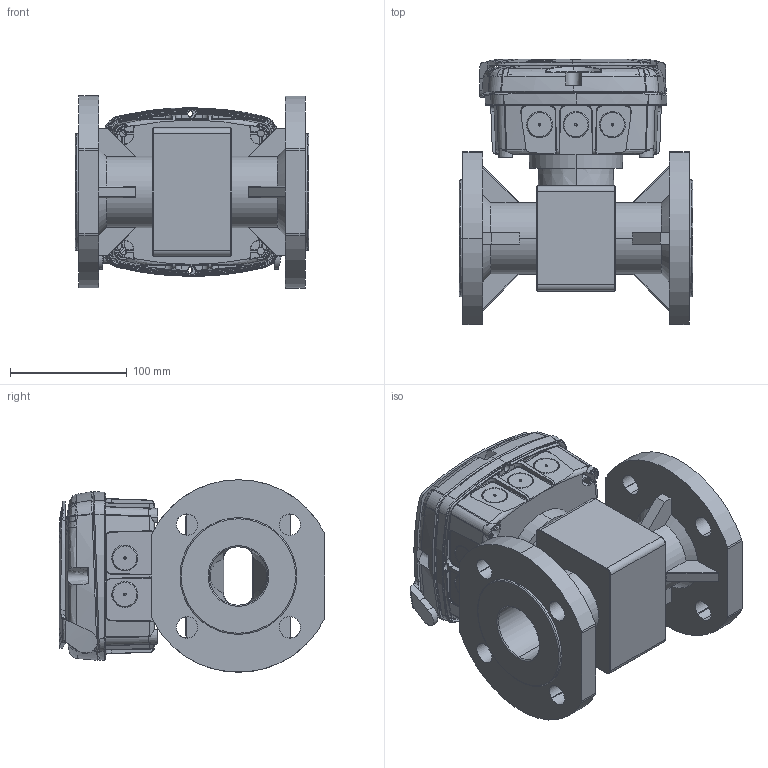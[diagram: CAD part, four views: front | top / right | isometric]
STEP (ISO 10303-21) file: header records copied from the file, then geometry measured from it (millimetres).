
FILE_DESCRIPTION (( 'STEP AP214' ), '1' );
FILE_NAME ('MagFlux-Q-DN50.STEP', '2018-01-07T08:34:42', ( 'Johnny' ), ( 'Hewlett-Packard Company' ), 'SwSTEP 2.0', 'SolidWorks 2017', '' );
FILE_SCHEMA (( 'AUTOMOTIVE_DESIGN' ));
Length unit declared in the file: millimetre
Products named in the file (7): Field-MagFlux; 500220 - Field laag; 500216 - Field top - display; 500214 Field bund MagFlux 001; MagFlux-Q-DN50 Housing; MagFlux-Q-DN50
Assembly tree (6 placements, depth 3):
  MagFlux-Q-DN50
    MagFlux-Q-DN50
    MagFlux-Q-DN50 Housing
    Field-MagFlux
      500214 Field bund MagFlux 001
      500216 - Field top - display
      500220 - Field laag
Bounding box: 200 x 227.47 x 165 mm (x, y, z)
Volume: 1522555 mm3; surface area: 480604.2 mm2
Topology: 5 solids, 5 shells, 3269 faces, 8971 edges, 5815 vertices
Faces by surface type: bspline 1881, plane 919, cylinder 264, cone 187, torus 18
Entity records: 261395 total; most frequent: CARTESIAN_POINT 165894, ORIENTED_EDGE 17880, EDGE_CURVE 8940, DIRECTION 7470, VERTEX_POINT 5815, B_SPLINE_CURVE_WITH_KNOTS 4666, VECTOR 3486, LINE 3486
